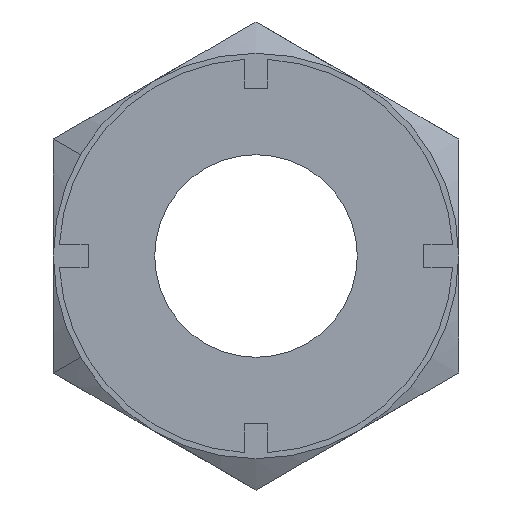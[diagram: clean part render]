
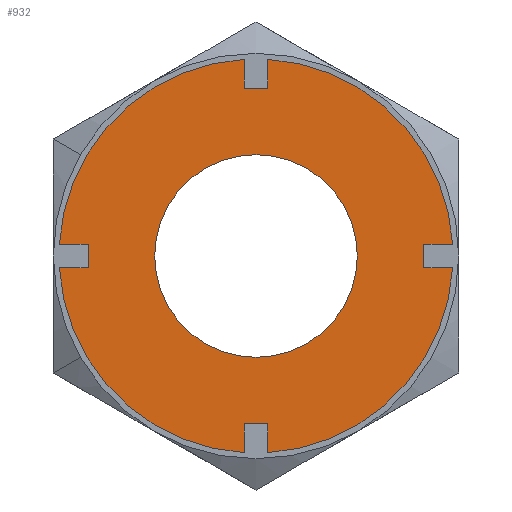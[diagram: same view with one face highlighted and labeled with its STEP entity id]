
A CAD part, left-side view. The second image highlights one B-rep face of the part: STEP entity #932.
In plain terms, the highlighted planar face has unit normal (-1, 0, 0).
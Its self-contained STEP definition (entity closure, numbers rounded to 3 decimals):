
#130=CARTESIAN_POINT('',(-27.0,0.,9.0));
#131=VERTEX_POINT('',#130);
#140=CARTESIAN_POINT('',(-27.0,9.0,0.0));
#141=VERTEX_POINT('',#140);
#142=CARTESIAN_POINT('',(-27.0,0.0,0.0));
#143=DIRECTION('',(1.0,0.0,0.0));
#144=DIRECTION('',(0.0,1.0,0.0));
#145=AXIS2_PLACEMENT_3D('',#142,#143,#144);
#146=CIRCLE('',#145,9.0);
#147=EDGE_CURVE('',#141,#131,#146,.T.);
#332=CARTESIAN_POINT('',(-27.0,0.,-9.0));
#333=VERTEX_POINT('',#332);
#342=CARTESIAN_POINT('',(-27.0,-9.0,0.));
#343=VERTEX_POINT('',#342);
#344=CARTESIAN_POINT('',(-27.0,0.0,0.0));
#345=DIRECTION('',(1.0,0.0,0.0));
#346=DIRECTION('',(0.0,1.0,0.0));
#347=AXIS2_PLACEMENT_3D('',#344,#345,#346);
#348=CIRCLE('',#347,9.0);
#349=EDGE_CURVE('',#343,#333,#348,.T.);
#383=CARTESIAN_POINT('',(-27.0,0.0,0.0));
#384=DIRECTION('',(1.0,0.0,0.0));
#385=DIRECTION('',(0.0,1.0,0.0));
#386=AXIS2_PLACEMENT_3D('',#383,#384,#385);
#387=CIRCLE('',#386,9.0);
#388=EDGE_CURVE('',#333,#141,#387,.T.);
#400=CARTESIAN_POINT('',(-27.0,17.468,1.05));
#401=VERTEX_POINT('',#400);
#416=CARTESIAN_POINT('',(-27.0,14.9,1.05));
#417=VERTEX_POINT('',#416);
#424=CARTESIAN_POINT('',(-27.0,17.468,1.05));
#425=DIRECTION('',(0.0,-1.0,0.0));
#426=VECTOR('',#425,2.568);
#427=LINE('',#424,#426);
#428=EDGE_CURVE('',#401,#417,#427,.T.);
#438=CARTESIAN_POINT('',(-27.0,17.468,-1.05));
#439=VERTEX_POINT('',#438);
#448=CARTESIAN_POINT('',(-27.0,14.9,-1.05));
#449=VERTEX_POINT('',#448);
#450=CARTESIAN_POINT('',(-27.0,14.9,-1.05));
#451=DIRECTION('',(0.0,1.0,0.0));
#452=VECTOR('',#451,2.568);
#453=LINE('',#450,#452);
#454=EDGE_CURVE('',#449,#439,#453,.T.);
#485=CARTESIAN_POINT('',(-27.0,14.9,1.05));
#486=DIRECTION('',(0.0,0.0,-1.0));
#487=VECTOR('',#486,2.1);
#488=LINE('',#485,#487);
#489=EDGE_CURVE('',#417,#449,#488,.T.);
#502=CARTESIAN_POINT('',(-27.0,-1.05,17.468));
#503=VERTEX_POINT('',#502);
#518=CARTESIAN_POINT('',(-27.0,-1.05,14.9));
#519=VERTEX_POINT('',#518);
#526=CARTESIAN_POINT('',(-27.0,-1.05,17.468));
#527=DIRECTION('',(0.0,0.0,-1.0));
#528=VECTOR('',#527,2.568);
#529=LINE('',#526,#528);
#530=EDGE_CURVE('',#503,#519,#529,.T.);
#540=CARTESIAN_POINT('',(-27.0,1.05,17.468));
#541=VERTEX_POINT('',#540);
#550=CARTESIAN_POINT('',(-27.0,1.05,14.9));
#551=VERTEX_POINT('',#550);
#552=CARTESIAN_POINT('',(-27.0,1.05,14.9));
#553=DIRECTION('',(0.0,0.0,1.0));
#554=VECTOR('',#553,2.568);
#555=LINE('',#552,#554);
#556=EDGE_CURVE('',#551,#541,#555,.T.);
#587=CARTESIAN_POINT('',(-27.0,-1.05,14.9));
#588=DIRECTION('',(0.0,1.0,0.0));
#589=VECTOR('',#588,2.1);
#590=LINE('',#587,#589);
#591=EDGE_CURVE('',#519,#551,#590,.T.);
#604=CARTESIAN_POINT('',(-27.0,-17.468,-1.05));
#605=VERTEX_POINT('',#604);
#620=CARTESIAN_POINT('',(-27.0,-14.9,-1.05));
#621=VERTEX_POINT('',#620);
#628=CARTESIAN_POINT('',(-27.0,-17.468,-1.05));
#629=DIRECTION('',(0.0,1.0,0.0));
#630=VECTOR('',#629,2.568);
#631=LINE('',#628,#630);
#632=EDGE_CURVE('',#605,#621,#631,.T.);
#642=CARTESIAN_POINT('',(-27.0,-17.468,1.05));
#643=VERTEX_POINT('',#642);
#652=CARTESIAN_POINT('',(-27.0,-14.9,1.05));
#653=VERTEX_POINT('',#652);
#654=CARTESIAN_POINT('',(-27.0,-14.9,1.05));
#655=DIRECTION('',(0.0,-1.0,0.0));
#656=VECTOR('',#655,2.568);
#657=LINE('',#654,#656);
#658=EDGE_CURVE('',#653,#643,#657,.T.);
#689=CARTESIAN_POINT('',(-27.0,-14.9,-1.05));
#690=DIRECTION('',(0.0,0.0,1.0));
#691=VECTOR('',#690,2.1);
#692=LINE('',#689,#691);
#693=EDGE_CURVE('',#621,#653,#692,.T.);
#706=CARTESIAN_POINT('',(-27.0,1.05,-17.468));
#707=VERTEX_POINT('',#706);
#722=CARTESIAN_POINT('',(-27.0,1.05,-14.9));
#723=VERTEX_POINT('',#722);
#730=CARTESIAN_POINT('',(-27.0,1.05,-17.468));
#731=DIRECTION('',(0.0,0.0,1.0));
#732=VECTOR('',#731,2.568);
#733=LINE('',#730,#732);
#734=EDGE_CURVE('',#707,#723,#733,.T.);
#744=CARTESIAN_POINT('',(-27.0,-1.05,-17.468));
#745=VERTEX_POINT('',#744);
#754=CARTESIAN_POINT('',(-27.0,-1.05,-14.9));
#755=VERTEX_POINT('',#754);
#756=CARTESIAN_POINT('',(-27.0,-1.05,-14.9));
#757=DIRECTION('',(0.0,0.0,-1.0));
#758=VECTOR('',#757,2.568);
#759=LINE('',#756,#758);
#760=EDGE_CURVE('',#755,#745,#759,.T.);
#791=CARTESIAN_POINT('',(-27.0,1.05,-14.9));
#792=DIRECTION('',(0.0,-1.0,0.0));
#793=VECTOR('',#792,2.1);
#794=LINE('',#791,#793);
#795=EDGE_CURVE('',#723,#755,#794,.T.);
#807=CARTESIAN_POINT('',(-27.0,0.0,0.0));
#808=DIRECTION('',(1.0,0.0,0.0));
#809=DIRECTION('',(0.0,1.0,0.0));
#810=AXIS2_PLACEMENT_3D('',#807,#808,#809);
#811=CIRCLE('',#810,17.5);
#812=EDGE_CURVE('',#605,#745,#811,.T.);
#831=CARTESIAN_POINT('',(-27.0,0.0,0.0));
#832=DIRECTION('',(1.0,0.0,0.0));
#833=DIRECTION('',(0.0,1.0,0.0));
#834=AXIS2_PLACEMENT_3D('',#831,#832,#833);
#835=CIRCLE('',#834,17.5);
#836=EDGE_CURVE('',#503,#643,#835,.T.);
#863=CARTESIAN_POINT('',(-27.0,0.0,0.0));
#864=DIRECTION('',(1.0,0.0,0.0));
#865=DIRECTION('',(0.0,1.0,0.0));
#866=AXIS2_PLACEMENT_3D('',#863,#864,#865);
#867=CIRCLE('',#866,17.5);
#868=EDGE_CURVE('',#707,#439,#867,.T.);
#879=CARTESIAN_POINT('',(-27.0,0.0,0.0));
#880=DIRECTION('',(1.0,0.0,0.0));
#881=DIRECTION('',(0.0,1.0,0.0));
#882=AXIS2_PLACEMENT_3D('',#879,#880,#881);
#883=CIRCLE('',#882,17.5);
#884=EDGE_CURVE('',#401,#541,#883,.T.);
#897=CARTESIAN_POINT('',(-27.0,-19.215,-19.215));
#898=DIRECTION('',(-1.0,0.0,0.0));
#899=DIRECTION('',(0.0,0.0,1.0));
#900=AXIS2_PLACEMENT_3D('',#897,#898,#899);
#901=PLANE('',#900);
#902=ORIENTED_EDGE('',*,*,#428,.T.);
#903=ORIENTED_EDGE('',*,*,#489,.T.);
#904=ORIENTED_EDGE('',*,*,#454,.T.);
#905=ORIENTED_EDGE('',*,*,#868,.F.);
#906=ORIENTED_EDGE('',*,*,#734,.T.);
#907=ORIENTED_EDGE('',*,*,#795,.T.);
#908=ORIENTED_EDGE('',*,*,#760,.T.);
#909=ORIENTED_EDGE('',*,*,#812,.F.);
#910=ORIENTED_EDGE('',*,*,#632,.T.);
#911=ORIENTED_EDGE('',*,*,#693,.T.);
#912=ORIENTED_EDGE('',*,*,#658,.T.);
#913=ORIENTED_EDGE('',*,*,#836,.F.);
#914=ORIENTED_EDGE('',*,*,#530,.T.);
#915=ORIENTED_EDGE('',*,*,#591,.T.);
#916=ORIENTED_EDGE('',*,*,#556,.T.);
#917=ORIENTED_EDGE('',*,*,#884,.F.);
#918=EDGE_LOOP('',(#902,#903,#904,#905,#906,#907,#908,#909,#910,#911,#912,#913,#914,#915,#916,#917));
#919=FACE_OUTER_BOUND('',#918,.T.);
#920=ORIENTED_EDGE('',*,*,#147,.T.);
#921=CARTESIAN_POINT('',(-27.0,0.0,0.0));
#922=DIRECTION('',(1.0,0.0,0.0));
#923=DIRECTION('',(0.0,1.0,0.0));
#924=AXIS2_PLACEMENT_3D('',#921,#922,#923);
#925=CIRCLE('',#924,9.0);
#926=EDGE_CURVE('',#131,#343,#925,.T.);
#927=ORIENTED_EDGE('',*,*,#926,.T.);
#928=ORIENTED_EDGE('',*,*,#349,.T.);
#929=ORIENTED_EDGE('',*,*,#388,.T.);
#930=EDGE_LOOP('',(#920,#927,#928,#929));
#931=FACE_BOUND('',#930,.T.);
#932=ADVANCED_FACE('',(#919,#931),#901,.T.);
